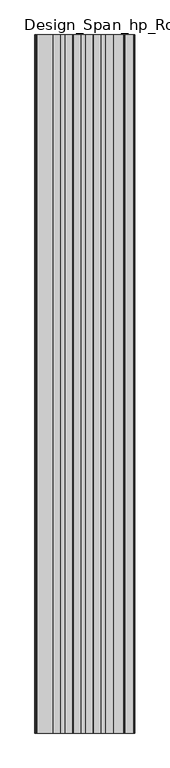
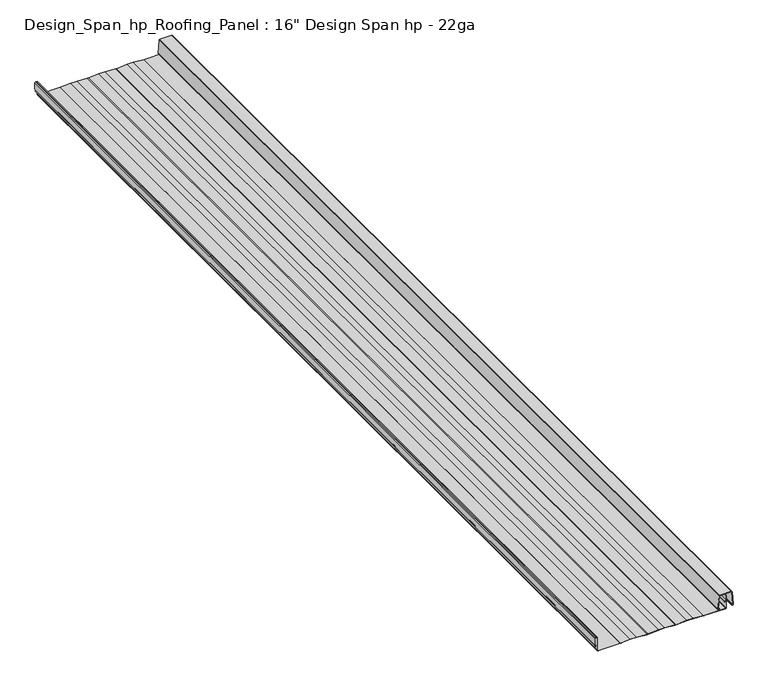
"""IFC4 building model written with IfcOpenShell, lengths in millimetres: proxy geometry."""

from ifc_helpers import new_model, si_unit, point, frame, frame_2d, origin, place, context, project, spatial, polyline, circle_curve, trimmed, segment, composite_curve, outline, extrude, faceted_brep, source, transform, mapped, element, save


def proxy_bb0d2f3e(model_context):
    return source(origin(), model_context, "Body", "SolidModel", [
        extrude(outline(composite_curve([segment(polyline([(4.4419256, 221.4395257), (6.437251, 218.907061), (5.7905442, 218.454232), (3.9442331, 221.0910376)]), True, "CONTINUOUS"), segment(trimmed(circle_curve(frame_2d((5.6861569, 222.3107458)), 2.1264964), [point((3.9442331, 221.0910376))], [point((5.8529999, 224.4306869))], False, "CARTESIAN"), True, "CONTINUOUS"), segment(polyline([(5.8529999, 224.4306869), (48.7328659, 221.0559683)]), True, "CONTINUOUS"), segment(trimmed(circle_curve(frame_2d((48.5958163, 219.3145881)), 1.7467649), [point((48.7328659, 221.0559683))], [point((50.3425812, 219.3145881))], False, "CARTESIAN"), True, "CONTINUOUS"), segment(polyline([(50.3425812, 219.3145881), (50.3425812, 181.9286333)]), True, "CONTINUOUS"), segment(trimmed(circle_curve(frame_2d((48.5958163, 181.9286333)), 1.7467649), [point((50.3425812, 181.9286333))], [point((48.7736135, 180.1909406))], False, "CARTESIAN"), True, "CONTINUOUS"), segment(polyline([(48.7736135, 180.1909406), (5.8530235, 176.8125361)]), True, "CONTINUOUS"), segment(trimmed(circle_curve(frame_2d((5.6861569, 178.9324754)), 2.1264964), [point((5.8530235, 176.8125361))], [point((3.944233, 180.1521835))], False, "CARTESIAN"), True, "CONTINUOUS"), segment(polyline([(3.944233, 180.1521835), (5.7905442, 182.7889894), (6.4461875, 182.329903), (4.4419256, 179.7990132)]), True, "CONTINUOUS"), segment(trimmed(circle_curve(frame_2d((5.6861569, 178.927793)), 1.518926), [point((4.4419256, 179.7990132))], [point((5.805417, 177.4135562))], True, "CARTESIAN"), True, "CONTINUOUS"), segment(polyline([(5.805417, 177.4135562), (48.6981036, 180.7917491)]), True, "CONTINUOUS"), segment(trimmed(circle_curve(frame_2d((48.5948409, 181.9286333)), 1.1415643), [point((48.6981036, 180.7917491))], [point((49.7364052, 181.9286333))], True, "CARTESIAN"), True, "CONTINUOUS"), segment(polyline([(49.7364052, 181.9286333), (49.7364052, 219.3143592)]), True, "CONTINUOUS"), segment(trimmed(circle_curve(frame_2d((48.5965516, 219.3143592)), 1.1398536), [point((49.7364052, 219.3143592))], [point((48.6859705, 220.4507001))], True, "CARTESIAN"), True, "CONTINUOUS"), segment(polyline([(48.6859705, 220.4507001), (5.8053133, 223.8249908)]), True, "CONTINUOUS"), segment(trimmed(circle_curve(frame_2d((5.6861569, 222.3107458)), 1.518926), [point((5.8053133, 223.8249908))], [point((4.4419256, 221.4395257))], True, "CARTESIAN"), True, "CONTINUOUS")], self_intersect=False)), frame((0.0, -3048.0, 0.0), z_axis=(0.0, 1.0, 0.0), x_axis=(0.0, 0.0, 1.0)), (0.0, 0.0, 1.0), 3048.0),
        faceted_brep([(98.3896485, -3048.0, 2.1886753), (130.9591887, -3048.0, 0.0), (130.959119, -3048.0, 0.7815562), (98.3896485, -3048.0, 2.9702315), (78.8507431, -3048.0, 2.9702315), (46.2812018, -3048.0, 0.7815562), (42.3390647, -3048.0, 0.7815562), (9.7695234, -3048.0, 2.9702315), (-9.769382, -3048.0, 2.9702315), (-42.3389232, -3048.0, 0.7815562), (-46.2810604, -3048.0, 0.7815562), (-78.8506017, -3048.0, 2.9702315), (-98.3895071, -3048.0, 2.9702315), (-130.9590483, -3048.0, 0.7815609), (-130.959119, -3048.0, 0.0), (-98.3895071, -3048.0, 2.1886753), (-78.8506017, -3048.0, 2.1886753), (-46.2810604, -3048.0, 0.0), (-42.3389232, -3048.0, 0.0), (-9.769382, -3048.0, 2.1886753), (9.7695234, -3048.0, 2.1886753), (42.3390647, -3048.0, 0.0), (46.2812018, -3048.0, 0.0), (78.8507431, -3048.0, 2.1886753), (98.3896485, 0.0, 2.1886753), (78.8507431, 0.0, 2.1886753), (46.2812018, 0.0, 0.0), (42.3390647, 0.0, 0.0), (9.7695234, 0.0, 2.1886753), (-9.769382, 0.0, 2.1886753), (-42.3389232, 0.0, 0.0), (-46.2810604, 0.0, 0.0), (-78.8506017, 0.0, 2.1886753), (-98.3895071, 0.0, 2.1886753), (-130.959119, 0.0, 0.0), (-130.959119, 0.0, 0.7815609), (-98.3895071, 0.0, 2.9702315), (-78.8506017, 0.0, 2.9702315), (-46.2810604, 0.0, 0.7815562), (-42.3389232, 0.0, 0.7815562), (-9.769382, 0.0, 2.9702315), (9.7695234, 0.0, 2.9702315), (42.3390647, 0.0, 0.7815562), (46.2812018, 0.0, 0.7815562), (78.8507431, 0.0, 2.9702315), (98.3896485, 0.0, 2.9702315), (130.9591887, 0.0, 0.7815562), (130.959119, 0.0, 0.0)], [[[0, 1, 2, 3, 4, 5, 6, 7, 8, 9, 10, 11, 12, 13, 14, 15, 16, 17, 18, 19, 20, 21, 22, 23]], [[24, 25, 26, 27, 28, 29, 30, 31, 32, 33, 34, 35, 36, 37, 38, 39, 40, 41, 42, 43, 44, 45, 46, 47]], [[2, 1, 47, 46]], [[3, 2, 46, 45]], [[4, 3, 45, 44]], [[5, 4, 44, 43]], [[6, 5, 43, 42]], [[7, 6, 42, 41]], [[8, 7, 41, 40]], [[9, 8, 40, 39]], [[10, 9, 39, 38]], [[11, 10, 38, 37]], [[12, 11, 37, 36]], [[13, 12, 36, 35]], [[14, 13, 35, 34]], [[15, 14, 34, 33]], [[16, 15, 33, 32]], [[17, 16, 32, 31]], [[18, 17, 31, 30]], [[19, 18, 30, 29]], [[20, 19, 29, 28]], [[21, 20, 28, 27]], [[22, 21, 27, 26]], [[23, 22, 26, 25]], [[0, 23, 25, 24]], [[1, 0, 24, 47]]]),
        extrude(outline(composite_curve([segment(polyline([(42.1519319, 200.7511239), (30.9210398, 200.7511239), (23.9968051, 197.7404672)]), True, "CONTINUOUS"), segment(trimmed(circle_curve(frame_2d((23.5085734, 198.8633556)), 1.2244381), [point((23.9968051, 197.7404672))], [point((22.385685, 198.3751238))], False, "CARTESIAN"), True, "CONTINUOUS"), segment(trimmed(circle_curve(frame_2d((23.5085734, 198.8633556)), 1.2244381), [point((22.385685, 198.3751238))], [point((23.0203416, 199.986244))], False, "CARTESIAN"), True, "CONTINUOUS"), segment(polyline([(23.0203416, 199.986244), (26.5323542, 201.5132668), (26.8439915, 200.7965295), (23.3319789, 199.2695067)]), True, "CONTINUOUS"), segment(trimmed(circle_curve(frame_2d((23.5085734, 198.8633556)), 0.4428819), [point((23.3319789, 199.2695067))], [point((23.6851678, 198.4572045))], True, "CARTESIAN"), True, "CONTINUOUS"), segment(polyline([(23.6851678, 198.4572045), (30.3473938, 201.3539398)]), True, "CONTINUOUS"), segment(trimmed(circle_curve(frame_2d((31.2556072, 199.1359077)), 2.3967724), [point((30.3473938, 201.3539398))], [point((31.2556072, 201.5326801))], False, "CARTESIAN"), True, "CONTINUOUS"), segment(polyline([(31.2556072, 201.5326801), (42.1519319, 201.5326801)]), True, "CONTINUOUS"), segment(trimmed(circle_curve(frame_2d((42.1519319, 201.9755619)), 0.4428819), [point((42.1519319, 201.5326801))], [point((42.1519319, 202.4184438))], True, "CARTESIAN"), True, "CONTINUOUS"), segment(polyline([(42.1519319, 202.4184438), (2.3967724, 202.4184438)]), True, "CONTINUOUS"), segment(trimmed(circle_curve(frame_2d((2.3967724, 200.8032276)), 1.6152162), [point((2.3967724, 202.4184438))], [point((0.7815562, 200.8032276))], True, "CARTESIAN"), True, "CONTINUOUS"), segment(polyline([(0.7815562, 200.8032276), (0.7815562, 130.959119), (0.0, 130.959119), (0.0, 200.8032276)]), True, "CONTINUOUS"), segment(trimmed(circle_curve(frame_2d((2.3967724, 200.8032276)), 2.3967724), [point((0.0, 200.8032276))], [point((2.3967724, 203.2))], False, "CARTESIAN"), True, "CONTINUOUS"), segment(polyline([(2.3967724, 203.2), (42.1519319, 203.2)]), True, "CONTINUOUS"), segment(trimmed(circle_curve(frame_2d((42.1519319, 201.9755619)), 1.2244381), [point((42.1519319, 203.2))], [point((43.37637, 201.9755619))], False, "CARTESIAN"), True, "CONTINUOUS"), segment(trimmed(circle_curve(frame_2d((42.1519319, 201.9755619)), 1.2244381), [point((43.37637, 201.9755619))], [point((42.1519319, 200.7511239))], False, "CARTESIAN"), True, "CONTINUOUS")], self_intersect=False)), frame((0.0, -3048.0, 0.0), z_axis=(0.0, 1.0, 0.0), x_axis=(0.0, 0.0, 1.0)), (0.0, 0.0, 1.0), 3048.0),
        extrude(outline(composite_curve([segment(polyline([(0.0, -200.8032347), (0.0, -130.959119), (0.7815609, -130.959119), (0.7815609, -200.8032217)]), True, "CONTINUOUS"), segment(trimmed(circle_curve(frame_2d((2.39677, -200.8032217)), 1.6152092), [point((0.7815609, -200.8032217))], [point((2.39677, -202.4184309))], True, "CARTESIAN"), True, "CONTINUOUS"), segment(polyline([(2.39677, -202.4184309), (43.1940318, -202.4184309)]), True, "CONTINUOUS"), segment(trimmed(circle_curve(frame_2d((43.1940318, -204.8152285)), 2.3967976), [point((43.1940318, -202.4184309))], [point((45.5908294, -204.8152285))], False, "CARTESIAN"), True, "CONTINUOUS"), segment(polyline([(45.5908294, -204.8152285), (45.5908294, -208.8794084)]), True, "CONTINUOUS"), segment(trimmed(circle_curve(frame_2d((43.193957, -208.8794084)), 2.3968724), [point((45.5908294, -208.8794084))], [point((43.193957, -211.2762808))], False, "CARTESIAN"), True, "CONTINUOUS"), segment(polyline([(43.193957, -211.2762808), (22.4058602, -211.2762808)]), True, "CONTINUOUS"), segment(trimmed(circle_curve(frame_2d((22.4058602, -209.452135)), 1.8241458), [point((22.4058602, -211.2762808))], [point((20.5952813, -209.2300713))], False, "CARTESIAN"), True, "CONTINUOUS"), segment(trimmed(circle_curve(frame_2d((19.5550248, -209.1573483)), 1.0427954), [point((20.5952813, -209.2300713))], [point((19.1140543, -208.2123787))], True, "CARTESIAN"), True, "CONTINUOUS"), segment(polyline([(19.1140543, -208.2123787), (15.2850421, -209.9980955), (14.9547093, -209.2897815), (18.7837558, -207.5040487)]), True, "CONTINUOUS"), segment(trimmed(circle_curve(frame_2d((19.5550248, -209.1573432)), 1.8243461), [point((18.7837558, -207.5040487))], [point((21.3658028, -209.3794277))], False, "CARTESIAN"), True, "CONTINUOUS"), segment(trimmed(circle_curve(frame_2d((22.4058592, -209.4521329)), 1.0425946), [point((21.3658028, -209.3794277))], [point((22.4058592, -210.4947275))], True, "CARTESIAN"), True, "CONTINUOUS"), segment(polyline([(22.4058592, -210.4947275), (43.1939563, -210.4947275)]), True, "CONTINUOUS"), segment(trimmed(circle_curve(frame_2d((43.1939563, -208.8794099)), 1.6153176), [point((43.1939563, -210.4947275))], [point((44.8092739, -208.8794099))], True, "CARTESIAN"), True, "CONTINUOUS"), segment(polyline([(44.8092739, -208.8794099), (44.8092739, -204.8152417)]), True, "CONTINUOUS"), segment(trimmed(circle_curve(frame_2d((43.1940321, -204.8152417)), 1.6152417), [point((44.8092739, -204.8152417))], [point((43.1940321, -203.2))], True, "CARTESIAN"), True, "CONTINUOUS"), segment(polyline([(43.1940321, -203.2), (2.3967653, -203.2)]), True, "CONTINUOUS"), segment(trimmed(circle_curve(frame_2d((2.3967653, -200.8032347)), 2.3967653), [point((2.3967653, -203.2))], [point((0.0, -200.8032347))], False, "CARTESIAN"), True, "CONTINUOUS")], self_intersect=False)), frame((0.0, -3048.0, 0.0), z_axis=(0.0, 1.0, 0.0), x_axis=(0.0, 0.0, 1.0)), (0.0, 0.0, 1.0), 3048.0),
    ])


if __name__ == "__main__":
    model = new_model("IFC4")
    model_context = context("Model", 3, world=origin())
    ifc_project = project(units=[si_unit("LENGTHUNIT", "METRE", prefix="MILLI")], contexts=[model_context])
    site = spatial("IfcSite", under=ifc_project)
    building = spatial("IfcBuilding", under=site)
    placement = place(None, origin())
    proxy_shape = proxy_bb0d2f3e(model_context)
    element("IfcBuildingElementProxy", 1, Name="Design_Span_hp_Roofing_Panel : 16\" Design Span hp - 22ga", ObjectType="Design_Span_hp_Roofing_Panel : 16\" Design Span hp - 22ga", at=placement, inside=building, context=model_context, shape_type="MappedRepresentation", body=[
        mapped(proxy_shape, transform((0.0, 0.0, 0.0), x_axis=(1.0, 0.0, 0.0), y_axis=(0.0, 1.0, 0.0), z_axis=(0.0, 0.0, 1.0))),
    ])
    save(model, "model.ifc")
